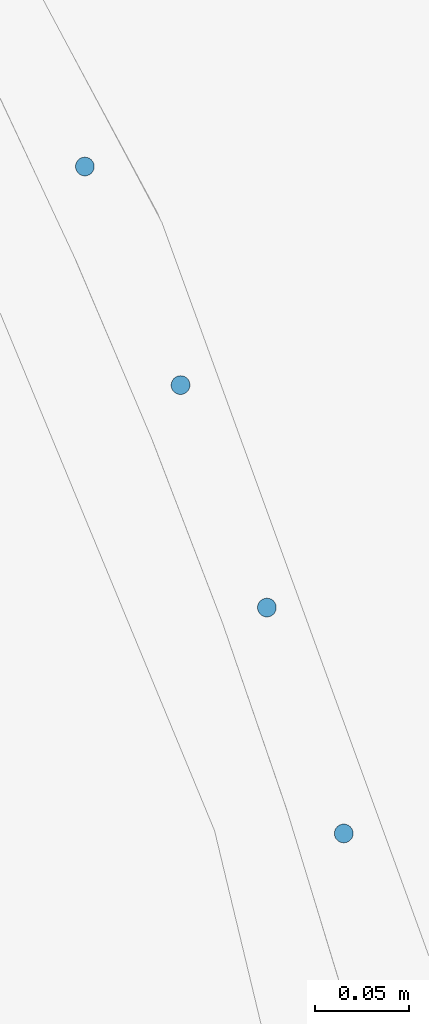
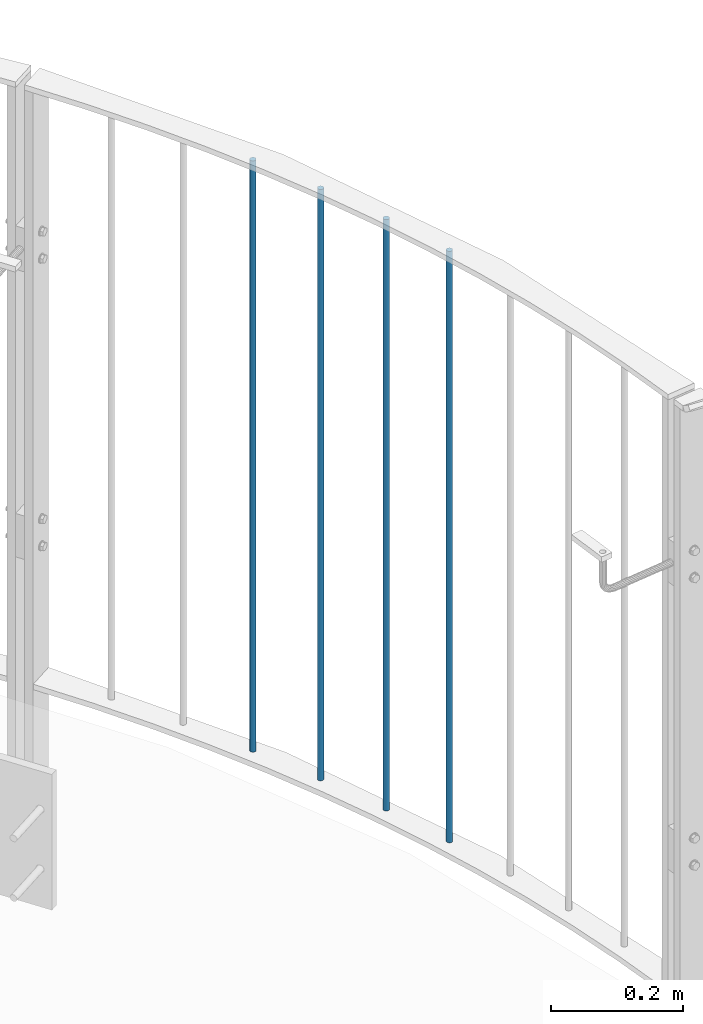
# One storey, part 77 of 296: 4 columns.
"""IFC2X3 building model written with IfcOpenShell, lengths in millimetres."""

from ifc_helpers import new_model, entity, si_unit, converted_unit, frame, origin, origin_with_axes, origin_2d, place, context, project, spatial, circle, extrude, material, element, save


model = new_model("IFC2X3")

# Units and contexts
model_context = context("Model", 3, precision=1e-09, world=origin_with_axes())
ifc_project = project(units=[si_unit("LENGTHUNIT", "METRE", prefix="MILLI"), si_unit("AREAUNIT", "SQUARE_METRE"), si_unit("VOLUMEUNIT", "CUBIC_METRE"), converted_unit("PLANEANGLEUNIT", "DEGREE", entity("IfcPlaneAngleMeasure", 0.01745329), si_unit("PLANEANGLEUNIT", "RADIAN"), dimensions=[0, 0, 0, 0, 0, 0, 0])], contexts=[model_context])

# Site, building, storey
site_placement = place(None, origin_with_axes())
site = spatial("IfcSite", under=ifc_project, at=site_placement, Name="TZD-S?d | Treppenhausgel?nder", CompositionType="ELEMENT")
building_placement = place(site_placement, origin_with_axes())
building = spatial("IfcBuilding", under=site, at=building_placement, Name="Struktur 1", CompositionType="ELEMENT")
storey_placement = place(building_placement, origin_with_axes())
storey = spatial("IfcBuildingStorey", under=building, at=storey_placement, Name="Default Storey", CompositionType="ELEMENT", Elevation=0.0)

# Columns
ifc_material = material(Name="S235JR")
for number, where, z_axis, x_axis in (
    (1, (5775.561227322, 802.43428571, 11725.0), (0.0, 0.0, -1.0), (0.0, 1.0, 0.0)),
    (2, (5734.68182338, 922.63019603, 11725.0), (0.0, 0.0, -1.0), (0.0, 1.0, 0.0)),
    (3, (5688.736821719, 1040.982379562, 11725.0), (0.0, 0.0, -1.0), (0.0, 1.0, 0.0)),
    (4, (5637.809056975, 1157.277458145, 11725.0), (0.0, 0.0, -1.0), (0.0, 1.0, 0.0)),
):
    element("IfcColumn", number, at=place(None, frame(where, z_axis=z_axis, x_axis=x_axis)), inside=storey, material=ifc_material, Name="-", ObjectType="-", context=model_context, shape_type="SweptSolid", body=[
        extrude(circle(Radius=5.0, at=origin_2d()), origin(), (0.0, 0.0, -1.0), 1090.0),
    ])

save(model, "model.ifc")
